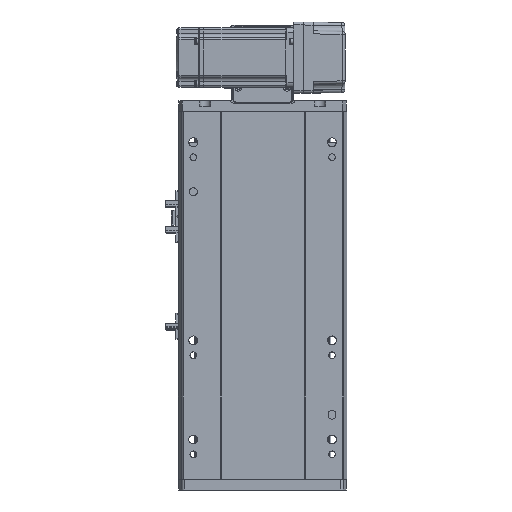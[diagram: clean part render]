
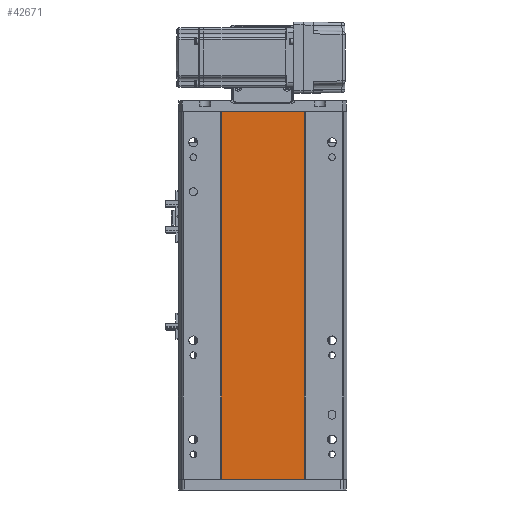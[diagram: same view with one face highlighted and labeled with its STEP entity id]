
A CAD part, front view. The second image highlights one B-rep face of the part: STEP entity #42671.
In plain terms, the highlighted planar face has unit normal (0, -1, 0).
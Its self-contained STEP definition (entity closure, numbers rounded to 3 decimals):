
#306 = VECTOR ( 'NONE', #20868, 1000. ) ;
#7606 = LINE ( 'NONE', #48654, #306 ) ;
#8064 = DIRECTION ( 'NONE',  ( 0., 0., -1. ) ) ;
#9996 = EDGE_CURVE ( 'NONE', #20992, #36582, #18001, .T. ) ;
#12081 = LINE ( 'NONE', #13037, #47981 ) ;
#13037 = CARTESIAN_POINT ( 'NONE',  ( 41.793, 0.998, 371. ) ) ;
#14051 = EDGE_LOOP ( 'NONE', ( #22681, #26692, #43367, #50209 ) ) ;
#14480 = CARTESIAN_POINT ( 'NONE',  ( 0., 0.999, 371. ) ) ;
#16549 = VERTEX_POINT ( 'NONE', #35231 ) ;
#18001 = LINE ( 'NONE', #32437, #26845 ) ;
#18512 = CARTESIAN_POINT ( 'NONE',  ( -41.791, 1., 371. ) ) ;
#20049 = DIRECTION ( 'NONE',  ( 0., 1., 0. ) ) ;
#20868 = DIRECTION ( 'NONE',  ( 1., 0., 0. ) ) ;
#20992 = VERTEX_POINT ( 'NONE', #18512 ) ;
#22681 = ORIENTED_EDGE ( 'NONE', *, *, #28181, .T. ) ;
#23431 = CARTESIAN_POINT ( 'NONE',  ( 41.793, 0.998, 371. ) ) ;
#24145 = PLANE ( 'NONE',  #59868 ) ;
#26692 = ORIENTED_EDGE ( 'NONE', *, *, #27871, .F. ) ;
#26845 = VECTOR ( 'NONE', #59667, 1000. ) ;
#27871 = EDGE_CURVE ( 'NONE', #36582, #16549, #12081, .T. ) ;
#28181 = EDGE_CURVE ( 'NONE', #38075, #16549, #7606, .T. ) ;
#32437 = CARTESIAN_POINT ( 'NONE',  ( 0., 0.999, 371. ) ) ;
#35231 = CARTESIAN_POINT ( 'NONE',  ( 41.793, 0.998, 0. ) ) ;
#36582 = VERTEX_POINT ( 'NONE', #23431 ) ;
#38075 = VERTEX_POINT ( 'NONE', #40087 ) ;
#39864 = FACE_OUTER_BOUND ( 'NONE', #14051, .T. ) ;
#40087 = CARTESIAN_POINT ( 'NONE',  ( -41.791, 1., 0. ) ) ;
#42671 = ADVANCED_FACE ( 'NONE', ( #39864 ), #24145, .F. ) ;
#43367 = ORIENTED_EDGE ( 'NONE', *, *, #9996, .F. ) ;
#45912 = LINE ( 'NONE', #55124, #46637 ) ;
#46637 = VECTOR ( 'NONE', #8064, 1000. ) ;
#47237 = DIRECTION ( 'NONE',  ( -1., 0., 0. ) ) ;
#47981 = VECTOR ( 'NONE', #52616, 1000. ) ;
#48654 = CARTESIAN_POINT ( 'NONE',  ( 0., 0.999, 0. ) ) ;
#50209 = ORIENTED_EDGE ( 'NONE', *, *, #53285, .T. ) ;
#52616 = DIRECTION ( 'NONE',  ( 0., 0., -1. ) ) ;
#53285 = EDGE_CURVE ( 'NONE', #20992, #38075, #45912, .T. ) ;
#55124 = CARTESIAN_POINT ( 'NONE',  ( -41.791, 1., 371. ) ) ;
#59667 = DIRECTION ( 'NONE',  ( 1., 0., 0. ) ) ;
#59868 = AXIS2_PLACEMENT_3D ( 'NONE', #14480, #20049, #47237 ) ;
